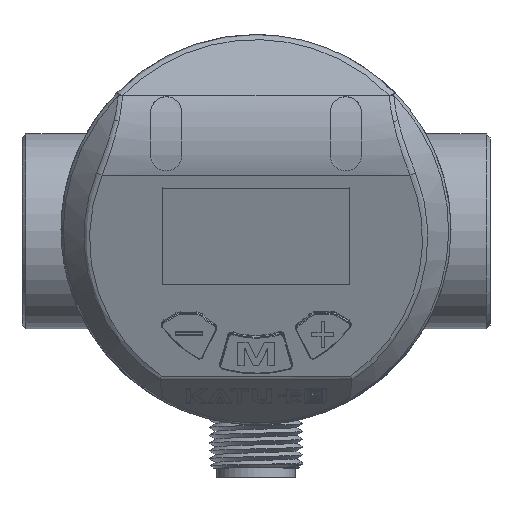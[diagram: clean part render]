
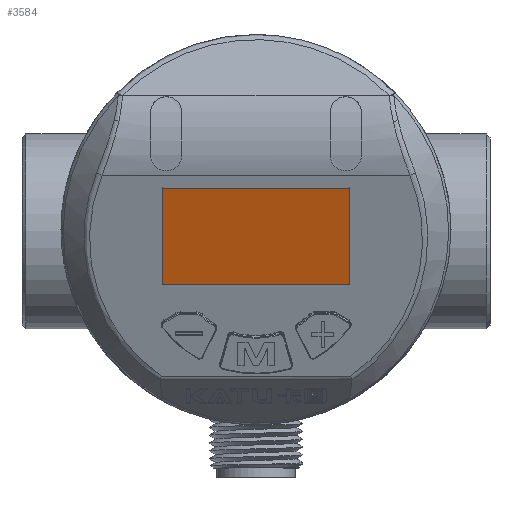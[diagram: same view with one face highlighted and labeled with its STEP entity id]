
A CAD part, top view. The second image highlights one B-rep face of the part: STEP entity #3584.
In plain terms, the highlighted planar face has unit normal (0, -0.342, 0.94).
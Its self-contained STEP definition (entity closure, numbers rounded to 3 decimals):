
#1255=LINE('',#18589,#2003);
#1256=LINE('',#18592,#2004);
#1257=LINE('',#18594,#2005);
#1258=LINE('',#18596,#2006);
#2003=VECTOR('',#13165,1.);
#2004=VECTOR('',#13166,1.);
#2005=VECTOR('',#13167,1.);
#2006=VECTOR('',#13168,1.);
#3584=ADVANCED_FACE('',(#4465),#4074,.T.);
#4074=PLANE('',#11550);
#4465=FACE_OUTER_BOUND('',#5122,.T.);
#5122=EDGE_LOOP('',(#6507,#6508,#6509,#6510));
#6507=ORIENTED_EDGE('',*,*,#9837,.T.);
#6508=ORIENTED_EDGE('',*,*,#9838,.T.);
#6509=ORIENTED_EDGE('',*,*,#9839,.T.);
#6510=ORIENTED_EDGE('',*,*,#9840,.T.);
#8737=VERTEX_POINT('',#18590);
#8738=VERTEX_POINT('',#18591);
#8739=VERTEX_POINT('',#18593);
#8740=VERTEX_POINT('',#18595);
#9837=EDGE_CURVE('',#8737,#8738,#1255,.T.);
#9838=EDGE_CURVE('',#8738,#8739,#1256,.T.);
#9839=EDGE_CURVE('',#8739,#8740,#1257,.T.);
#9840=EDGE_CURVE('',#8740,#8737,#1258,.T.);
#11550=AXIS2_PLACEMENT_3D('',#18597,#13169,#13170);
#13165=DIRECTION('',(0.,-0.94,-0.342));
#13166=DIRECTION('',(1.,0.,0.));
#13167=DIRECTION('',(0.,0.94,0.342));
#13168=DIRECTION('',(-1.,0.,0.));
#13169=DIRECTION('',(0.,-0.342,0.94));
#13170=DIRECTION('',(0.,-0.94,-0.342));
#18589=CARTESIAN_POINT('',(18.994,14.306,121.2));
#18590=CARTESIAN_POINT('',(18.998,5.258,117.907));
#18591=CARTESIAN_POINT('',(19.003,-7.061,113.423));
#18592=CARTESIAN_POINT('',(46.759,-7.051,113.427));
#18593=CARTESIAN_POINT('',(42.997,-7.052,113.426));
#18594=CARTESIAN_POINT('',(42.988,14.315,121.203));
#18595=CARTESIAN_POINT('',(42.992,5.267,117.91));
#18596=CARTESIAN_POINT('',(46.753,5.268,117.91));
#18597=CARTESIAN_POINT('',(46.75,14.316,121.204));
